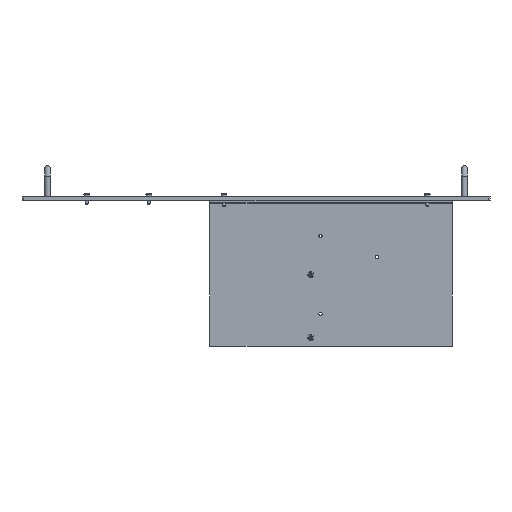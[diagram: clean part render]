
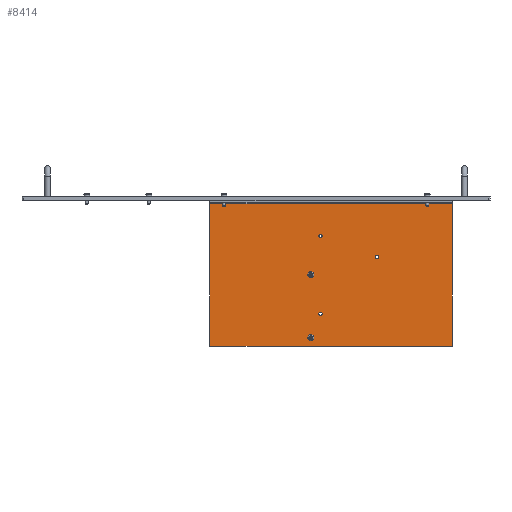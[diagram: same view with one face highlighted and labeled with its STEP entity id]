
A CAD part, front view. The second image highlights one B-rep face of the part: STEP entity #8414.
In plain terms, the highlighted planar face has unit normal (0, -1, 0).
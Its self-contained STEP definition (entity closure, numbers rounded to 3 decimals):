
#288=FACE_BOUND('',#2663,.T.);
#289=FACE_BOUND('',#2664,.T.);
#290=FACE_BOUND('',#2665,.T.);
#291=FACE_BOUND('',#2666,.T.);
#292=FACE_BOUND('',#2667,.T.);
#481=PLANE('',#9156);
#1029=LINE('',#13738,#1572);
#1030=LINE('',#13740,#1573);
#1031=LINE('',#13742,#1574);
#1032=LINE('',#13743,#1575);
#1572=VECTOR('',#10912,10.);
#1573=VECTOR('',#10913,10.);
#1574=VECTOR('',#10914,10.);
#1575=VECTOR('',#10915,10.);
#2125=FACE_OUTER_BOUND('',#2662,.T.);
#2662=EDGE_LOOP('',(#6600,#6601,#6602,#6603));
#2663=EDGE_LOOP('',(#6604));
#2664=EDGE_LOOP('',(#6605));
#2665=EDGE_LOOP('',(#6606,#6607));
#2666=EDGE_LOOP('',(#6608,#6609));
#2667=EDGE_LOOP('',(#6610,#6611));
#3156=CIRCLE('',#9157,3.);
#3157=CIRCLE('',#9158,3.);
#3158=CIRCLE('',#9159,1.75);
#3159=CIRCLE('',#9160,1.75);
#3160=CIRCLE('',#9161,1.75);
#3161=CIRCLE('',#9162,1.75);
#3162=CIRCLE('',#9163,1.75);
#3163=CIRCLE('',#9164,1.75);
#3777=VERTEX_POINT('',#13736);
#3778=VERTEX_POINT('',#13737);
#3779=VERTEX_POINT('',#13739);
#3780=VERTEX_POINT('',#13741);
#3781=VERTEX_POINT('',#13744);
#3782=VERTEX_POINT('',#13746);
#3783=VERTEX_POINT('',#13748);
#3784=VERTEX_POINT('',#13749);
#3785=VERTEX_POINT('',#13752);
#3786=VERTEX_POINT('',#13753);
#3787=VERTEX_POINT('',#13756);
#3788=VERTEX_POINT('',#13757);
#4766=EDGE_CURVE('',#3777,#3778,#1029,.T.);
#4767=EDGE_CURVE('',#3779,#3778,#1030,.T.);
#4768=EDGE_CURVE('',#3780,#3779,#1031,.T.);
#4769=EDGE_CURVE('',#3777,#3780,#1032,.T.);
#4770=EDGE_CURVE('',#3781,#3781,#3156,.T.);
#4771=EDGE_CURVE('',#3782,#3782,#3157,.T.);
#4772=EDGE_CURVE('',#3783,#3784,#3158,.T.);
#4773=EDGE_CURVE('',#3784,#3783,#3159,.T.);
#4774=EDGE_CURVE('',#3785,#3786,#3160,.T.);
#4775=EDGE_CURVE('',#3786,#3785,#3161,.T.);
#4776=EDGE_CURVE('',#3787,#3788,#3162,.T.);
#4777=EDGE_CURVE('',#3788,#3787,#3163,.T.);
#6600=ORIENTED_EDGE('',*,*,#4766,.T.);
#6601=ORIENTED_EDGE('',*,*,#4767,.F.);
#6602=ORIENTED_EDGE('',*,*,#4768,.F.);
#6603=ORIENTED_EDGE('',*,*,#4769,.F.);
#6604=ORIENTED_EDGE('',*,*,#4770,.F.);
#6605=ORIENTED_EDGE('',*,*,#4771,.F.);
#6606=ORIENTED_EDGE('',*,*,#4772,.T.);
#6607=ORIENTED_EDGE('',*,*,#4773,.T.);
#6608=ORIENTED_EDGE('',*,*,#4774,.T.);
#6609=ORIENTED_EDGE('',*,*,#4775,.T.);
#6610=ORIENTED_EDGE('',*,*,#4776,.T.);
#6611=ORIENTED_EDGE('',*,*,#4777,.T.);
#8414=ADVANCED_FACE('',(#2125,#288,#289,#290,#291,#292),#481,.T.);
#9156=AXIS2_PLACEMENT_3D('',#13735,#10910,#10911);
#9157=AXIS2_PLACEMENT_3D('',#13745,#10916,#10917);
#9158=AXIS2_PLACEMENT_3D('',#13747,#10918,#10919);
#9159=AXIS2_PLACEMENT_3D('',#13750,#10920,#10921);
#9160=AXIS2_PLACEMENT_3D('',#13751,#10922,#10923);
#9161=AXIS2_PLACEMENT_3D('',#13754,#10924,#10925);
#9162=AXIS2_PLACEMENT_3D('',#13755,#10926,#10927);
#9163=AXIS2_PLACEMENT_3D('',#13758,#10928,#10929);
#9164=AXIS2_PLACEMENT_3D('',#13759,#10930,#10931);
#10910=DIRECTION('center_axis',(0.,-1.,0.));
#10911=DIRECTION('ref_axis',(-1.,0.,0.));
#10912=DIRECTION('',(-1.,0.,0.));
#10913=DIRECTION('',(0.,0.,1.));
#10914=DIRECTION('',(-1.,0.,0.));
#10915=DIRECTION('',(0.,0.,-1.));
#10916=DIRECTION('center_axis',(0.,-1.,0.));
#10917=DIRECTION('ref_axis',(-1.,0.,0.));
#10918=DIRECTION('center_axis',(0.,-1.,0.));
#10919=DIRECTION('ref_axis',(-1.,0.,0.));
#10920=DIRECTION('center_axis',(0.,1.,0.));
#10921=DIRECTION('ref_axis',(-1.,0.,0.));
#10922=DIRECTION('center_axis',(0.,1.,0.));
#10923=DIRECTION('ref_axis',(-1.,0.,0.));
#10924=DIRECTION('center_axis',(0.,1.,0.));
#10925=DIRECTION('ref_axis',(-1.,0.,0.));
#10926=DIRECTION('center_axis',(0.,1.,0.));
#10927=DIRECTION('ref_axis',(-1.,0.,0.));
#10928=DIRECTION('center_axis',(0.,1.,0.));
#10929=DIRECTION('ref_axis',(-1.,0.,0.));
#10930=DIRECTION('center_axis',(0.,1.,0.));
#10931=DIRECTION('ref_axis',(-1.,0.,0.));
#13735=CARTESIAN_POINT('Origin',(77.5,-28.55,-75.));
#13736=CARTESIAN_POINT('',(202.5,-28.55,-3.));
#13737=CARTESIAN_POINT('',(-47.5,-28.55,-3.));
#13738=CARTESIAN_POINT('',(15.,-28.55,-3.));
#13739=CARTESIAN_POINT('',(-47.5,-28.55,-150.));
#13740=CARTESIAN_POINT('',(-47.5,-28.55,-150.));
#13741=CARTESIAN_POINT('',(202.5,-28.55,-150.));
#13742=CARTESIAN_POINT('',(202.5,-28.55,-150.));
#13743=CARTESIAN_POINT('',(202.5,-28.55,0.));
#13744=CARTESIAN_POINT('',(59.5,-28.55,-141.25));
#13745=CARTESIAN_POINT('Origin',(56.5,-28.55,-141.25));
#13746=CARTESIAN_POINT('',(59.5,-28.55,-76.25));
#13747=CARTESIAN_POINT('Origin',(56.5,-28.55,-76.25));
#13748=CARTESIAN_POINT('',(64.75,-28.55,-36.5));
#13749=CARTESIAN_POINT('',(68.25,-28.55,-36.5));
#13750=CARTESIAN_POINT('Origin',(66.5,-28.55,-36.5));
#13751=CARTESIAN_POINT('Origin',(66.5,-28.55,-36.5));
#13752=CARTESIAN_POINT('',(122.75,-28.55,-58.));
#13753=CARTESIAN_POINT('',(126.25,-28.55,-58.));
#13754=CARTESIAN_POINT('Origin',(124.5,-28.55,-58.));
#13755=CARTESIAN_POINT('Origin',(124.5,-28.55,-58.));
#13756=CARTESIAN_POINT('',(64.75,-28.55,-116.5));
#13757=CARTESIAN_POINT('',(68.25,-28.55,-116.5));
#13758=CARTESIAN_POINT('Origin',(66.5,-28.55,-116.5));
#13759=CARTESIAN_POINT('Origin',(66.5,-28.55,-116.5));
